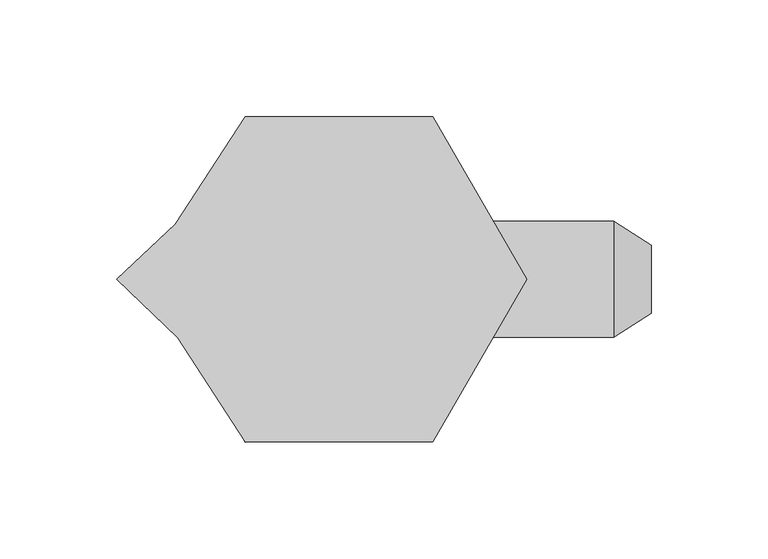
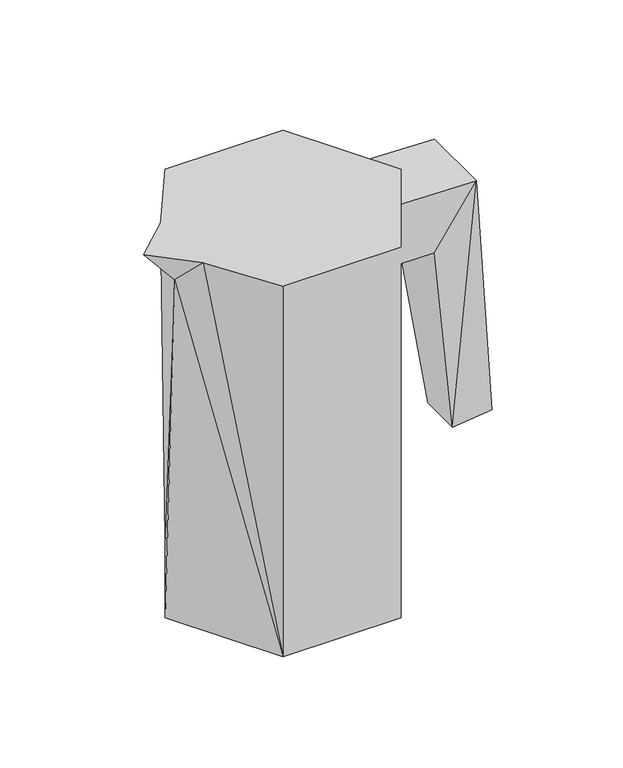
"""IFC4 building model written with IfcOpenShell, lengths in millimetres: geographic element geometry, Enscape AssetDefinition - Kitchen Appliance 002 Kettle : Enscape AssetDefinition - Kitchen Appliance 002 Kettle."""

from ifc_helpers import new_model, si_unit, origin, place, context, project, spatial, triangles, source, transform, mapped, element, save


def geographic_element_02b0aeb2(model_context):
    return source(origin(), model_context, "Body", "Tessellation", [
        triangles([(40.306406, -69.8129989, 267.175734), (40.306406, -69.8129989, -0.110074), (80.612812, 0.0, -0.110074), (80.612812, 0.0, 267.175734), (40.306406, 69.8129989, 267.175734), (-40.306406, -69.8129989, -0.110074), (-40.306406, -69.8129989, 267.175734), (-69.2800145, -25.1277767, 267.175734), (40.306406, 69.8129989, -0.110074), (-40.306406, 69.8129989, 267.175734), (-40.306406, 69.8129989, -0.110074), (-95.4486616, 0.0, 267.175734), (-70.1982588, 23.5365289, 267.175734), (-74.0267133, 0.0, 241.524629), (-80.612812, 0.0, -0.110074), (117.8458228, -24.8496937, 260.7933656), (63.6884499, -24.8496937, 218.9719903), (63.6884499, 24.807209, 218.9719903), (89.1165081, -24.8496937, 218.9719903), (107.2806519, -14.6668816, 80.4139052), (117.8458228, 24.807209, 260.7933656), (134.0923784, -14.6668816, 83.696808), (63.6884499, -24.8496937, 262.2223845), (89.1165081, 24.807209, 218.9719903), (63.6884499, 24.807209, 262.2223845), (134.0923784, 14.6243969, 83.696808), (107.2806519, 14.6243969, 80.4139052)], [[24, 26, 27], [20, 27, 26], [20, 26, 22], [24, 21, 26], [21, 22, 26], [24, 25, 21], [24, 18, 25], [18, 23, 25], [23, 21, 25], [21, 16, 22], [23, 16, 21], [16, 20, 22], [16, 19, 20], [19, 24, 27], [19, 27, 20], [18, 17, 23], [17, 19, 16], [17, 18, 24], [17, 16, 23], [17, 24, 19], [15, 6, 14], [6, 8, 14], [8, 12, 14], [14, 12, 13], [13, 12, 8], [11, 15, 14], [6, 15, 11], [11, 14, 13], [9, 11, 10], [11, 13, 10], [9, 10, 5], [13, 8, 7], [10, 13, 7], [6, 7, 8], [6, 1, 7], [4, 10, 7], [4, 5, 10], [1, 4, 7], [3, 9, 5], [6, 11, 3], [11, 9, 3], [3, 5, 4], [2, 3, 4], [6, 2, 1], [2, 4, 1], [2, 6, 3]]),
    ])


if __name__ == "__main__":
    model = new_model("IFC4")
    model_context = context("Model", 3, world=origin())
    ifc_project = project(units=[si_unit("LENGTHUNIT", "METRE", prefix="MILLI")], contexts=[model_context])
    site = spatial("IfcSite", under=ifc_project)
    building = spatial("IfcBuilding", under=site)
    placement = place(None, origin())
    geographic_element_shape = geographic_element_02b0aeb2(model_context)
    element("IfcGeographicElement", 1, ObjectType="Enscape AssetDefinition - Kitchen Appliance 002 Kettle : Enscape AssetDefinition - Kitchen Appliance 002 Kettle", at=placement, inside=building, context=model_context, shape_type="MappedRepresentation", body=[
        mapped(geographic_element_shape, transform((0.0, 0.0, 0.0), x_axis=(1.0, 0.0, 0.0), y_axis=(0.0, 1.0, 0.0), z_axis=(0.0, 0.0, 1.0))),
    ])
    save(model, "model.ifc")
